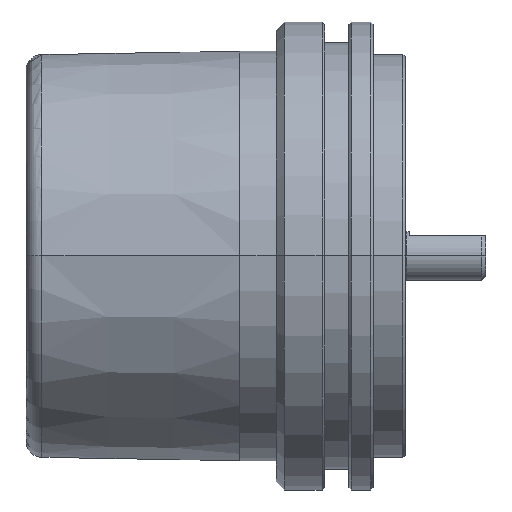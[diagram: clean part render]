
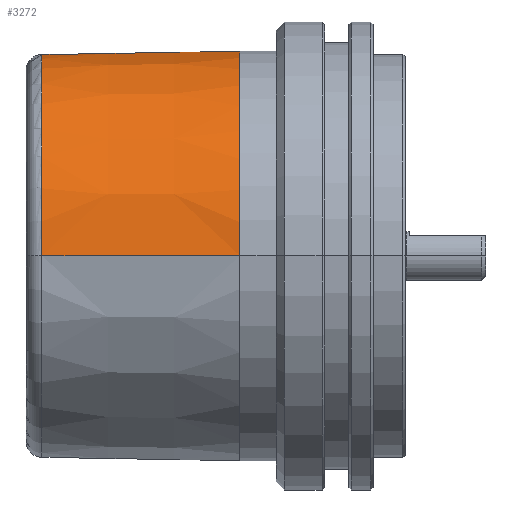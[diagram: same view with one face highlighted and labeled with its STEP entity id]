
A CAD part, top view. The second image highlights one B-rep face of the part: STEP entity #3272.
In plain terms, the highlighted conical face has half-angle 1 degrees and reference radius 25.4 mm.
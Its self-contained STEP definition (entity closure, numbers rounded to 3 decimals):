
#644 = DIRECTION ( 'NONE',  ( 0., 0., -1. ) ) ;
#737 = CARTESIAN_POINT ( 'NONE',  ( -23.85, 17.858, -17.671 ) ) ;
#857 = CIRCLE ( 'NONE', #12517, 25.4 ) ;
#1122 = CARTESIAN_POINT ( 'NONE',  ( -16.264, 17.734, -17.97 ) ) ;
#1670 = CARTESIAN_POINT ( 'NONE',  ( 0.685, 0.72, 0.492 ) ) ;
#2006 = CARTESIAN_POINT ( 'NONE',  ( 0.685, 0.72, 25.892 ) ) ;
#2073 = DIRECTION ( 'NONE',  ( -1., 0., 0. ) ) ;
#2079 = VERTEX_POINT ( 'NONE', #13894 ) ;
#2152 = EDGE_LOOP ( 'NONE', ( #5605, #9393, #13718, #6360, #9026, #6264 ) ) ;
#2554 = VERTEX_POINT ( 'NONE', #2006 ) ;
#2595 = B_SPLINE_CURVE_WITH_KNOTS ( 'NONE', 3,
 ( #10213, #4234, #12603, #5449, #13787, #6650, #14981, #7851 ),
 .UNSPECIFIED., .F., .F.,
 ( 4, 2, 2, 4 ),
 ( 0., 0.001, 0.001, 0.002 ),
 .UNSPECIFIED. ) ;
#3272 = ADVANCED_FACE ( 'NONE', ( #11952 ), #13588, .T. ) ;
#3513 = EDGE_CURVE ( 'NONE', #13687, #2554, #7076, .T. ) ;
#4234 = CARTESIAN_POINT ( 'NONE',  ( 0.548, 16.92, -19.069 ) ) ;
#5449 = CARTESIAN_POINT ( 'NONE',  ( 0.108, 17.167, -18.851 ) ) ;
#5605 = ORIENTED_EDGE ( 'NONE', *, *, #10728, .T. ) ;
#5636 = CARTESIAN_POINT ( 'NONE',  ( 0.685, 16.827, -19.149 ) ) ;
#5918 = VERTEX_POINT ( 'NONE', #737 ) ;
#5980 = VERTEX_POINT ( 'NONE', #5636 ) ;
#6264 = ORIENTED_EDGE ( 'NONE', *, *, #9070, .T. ) ;
#6360 = ORIENTED_EDGE ( 'NONE', *, *, #11889, .T. ) ;
#6456 = CARTESIAN_POINT ( 'NONE',  ( -23.85, 17.858, -17.671 ) ) ;
#6458 = DIRECTION ( 'NONE',  ( 1., 0., 0. ) ) ;
#6518 = DIRECTION ( 'NONE',  ( 0., 0., 1. ) ) ;
#6650 = CARTESIAN_POINT ( 'NONE',  ( -0.536, 17.419, -18.62 ) ) ;
#6653 = CARTESIAN_POINT ( 'NONE',  ( -23.85, 0.72, 25.463 ) ) ;
#6995 = CARTESIAN_POINT ( 'NONE',  ( 0.685, 0.72, 25.892 ) ) ;
#7076 = LINE ( 'NONE', #6995, #9870 ) ;
#7086 = EDGE_CURVE ( 'NONE', #9432, #2079, #13572, .T. ) ;
#7225 = CARTESIAN_POINT ( 'NONE',  ( -1.263, 17.501, -18.53 ) ) ;
#7280 = B_SPLINE_CURVE_WITH_KNOTS ( 'NONE', 3,
 ( #13557, #10024, #13606, #6456 ),
 .UNSPECIFIED., .F., .F.,
 ( 4, 4 ),
 ( 0., 0. ),
 .UNSPECIFIED. ) ;
#7558 = EDGE_CURVE ( 'NONE', #2554, #5980, #857, .T. ) ;
#7834 = DIRECTION ( 'NONE',  ( 1., 0., 0. ) ) ;
#7851 = CARTESIAN_POINT ( 'NONE',  ( -1.263, 17.501, -18.53 ) ) ;
#8308 = CARTESIAN_POINT ( 'NONE',  ( -8.764, 17.615, -18.255 ) ) ;
#9026 = ORIENTED_EDGE ( 'NONE', *, *, #7086, .T. ) ;
#9070 = EDGE_CURVE ( 'NONE', #2079, #5918, #7280, .T. ) ;
#9256 = CARTESIAN_POINT ( 'NONE',  ( 0.685, 0.72, 0.492 ) ) ;
#9393 = ORIENTED_EDGE ( 'NONE', *, *, #3513, .T. ) ;
#9432 = VERTEX_POINT ( 'NONE', #7225 ) ;
#9517 = CARTESIAN_POINT ( 'NONE',  ( -23.763, 17.858, -17.673 ) ) ;
#9870 = VECTOR ( 'NONE', #15311, 1000. ) ;
#10024 = CARTESIAN_POINT ( 'NONE',  ( -23.792, 17.859, -17.672 ) ) ;
#10213 = CARTESIAN_POINT ( 'NONE',  ( 0.685, 16.827, -19.149 ) ) ;
#10472 = DIRECTION ( 'NONE',  ( 0., 0., -1. ) ) ;
#10728 = EDGE_CURVE ( 'NONE', #5918, #13687, #11730, .T. ) ;
#10996 = AXIS2_PLACEMENT_3D ( 'NONE', #14965, #7834, #644 ) ;
#11186 = AXIS2_PLACEMENT_3D ( 'NONE', #1670, #6458, #6518 ) ;
#11730 = CIRCLE ( 'NONE', #10996, 24.972 ) ;
#11889 = EDGE_CURVE ( 'NONE', #5980, #9432, #2595, .T. ) ;
#11952 = FACE_OUTER_BOUND ( 'NONE', #2152, .T. ) ;
#12517 = AXIS2_PLACEMENT_3D ( 'NONE', #9256, #2073, #10472 ) ;
#12603 = CARTESIAN_POINT ( 'NONE',  ( 0.407, 17.008, -18.993 ) ) ;
#13557 = CARTESIAN_POINT ( 'NONE',  ( -23.763, 17.858, -17.673 ) ) ;
#13572 = B_SPLINE_CURVE_WITH_KNOTS ( 'NONE', 3,
 ( #15441, #8308, #1122, #9517 ),
 .UNSPECIFIED., .F., .F.,
 ( 4, 4 ),
 ( 0., 0.023 ),
 .UNSPECIFIED. ) ;
#13588 = CONICAL_SURFACE ( 'NONE', #11186, 25.4, 0.017 ) ;
#13606 = CARTESIAN_POINT ( 'NONE',  ( -23.821, 17.859, -17.671 ) ) ;
#13687 = VERTEX_POINT ( 'NONE', #6653 ) ;
#13718 = ORIENTED_EDGE ( 'NONE', *, *, #7558, .T. ) ;
#13787 = CARTESIAN_POINT ( 'NONE',  ( -0.049, 17.239, -18.787 ) ) ;
#13894 = CARTESIAN_POINT ( 'NONE',  ( -23.763, 17.858, -17.673 ) ) ;
#14965 = CARTESIAN_POINT ( 'NONE',  ( -23.85, 0.72, 0.492 ) ) ;
#14981 = CARTESIAN_POINT ( 'NONE',  ( -0.894, 17.495, -18.544 ) ) ;
#15311 = DIRECTION ( 'NONE',  ( 1., 0., 0.017 ) ) ;
#15441 = CARTESIAN_POINT ( 'NONE',  ( -1.263, 17.501, -18.53 ) ) ;
